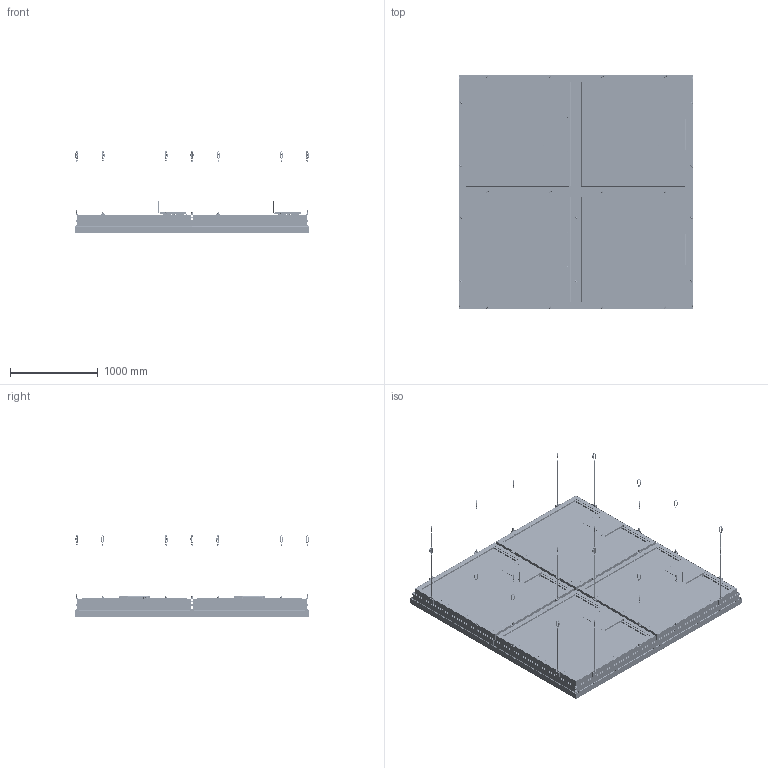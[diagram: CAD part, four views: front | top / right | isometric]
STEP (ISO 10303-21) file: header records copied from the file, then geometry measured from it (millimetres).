
FILE_DESCRIPTION (( 'STEP AP203' ), '1' );
FILE_NAME ('LSL-LUMISKY-4x4-Suspended-2H-2V.STEP', '2025-06-30T18:46:38', ( '' ), ( '' ), 'SwSTEP 2.0', 'SolidWorks 2023', '' );
FILE_SCHEMA (( 'CONFIG_CONTROL_DESIGN' ));
Length unit declared in the file: millimetre
Products named in the file (62): Assem of Aluminum extrude for magnet V7.2; M6 washer WITH SECURE V7.1; Molex 2pin female-4X4; Mirrorsmall support plate-4X4; AC JUNCTION BOX V4_short; PORSCHE RAPID LINK PORCHE20160912.; HLG-320H-24A-4X4; connector-4X4; Base of gripper V7.4; plunger-0425_2_released long; DC JUNC ASSEM^Assem collection line V4.0-4X4_ASTRA STATIC 4P; mounting rectangular V7.1; long M6 nut-4X4; Assem OF MOUNTING RECTANGULAR with gripper V7.4_NO CABLE; AC CABLE CONNECTOR WITH BX CABLE; Assem of gripper of lumisky V7.4; TRX-4X4_WITH BRACKET; frame 1030 and 2125 2X2 V6.0_2125<As Machined>; M4 x 0.7 x12 flat screw for magnet_91294A192; COLLECTION _ AC JB_BX CABLE-4X4_WITH ELECTRICAL CABLE; M4 SCREW; plate for driver V4.1-4X4_SMALL; 1030 881_Default<As Machined>; M8 X 1.25 FLANGE NUT_92461A400; PORSCHE AIRCRAFT CABLE PORCHE160803._with cable 150mm; Cover of gripper V7.4; mullion cover; LSL-LUMISKY-4x4-Suspended-2H-2V; M8 PLATE NUT; GRID 4x4ft_2 X 2; connector SIDE FIXED-4X4; Assem PLUNGER from Joan 0425_released long; BLOCKOUT^ASSM_FLS 2125; AC CABLE COLLETOR PLATE; 1030 1770_Default<As Machined>; SUSPENSION_LUMISKY; mullion extrude 4x4ft_2 X 2_4 x 8<As Machined>; PORSCHE ASSEMBLE hanging cable  PO170106.; Assem 1030 881; 91290A351_Alloy Steel Socket Head Screw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
Assembly tree (113 placements, depth 8):
  LSL-LUMISKY-4x4-Suspended-2H-2V
    GRID 4x4ft_2 X 2
      Sub_assm_cb1030 4x4ft_2 X 2
        Assem 1030 1770  x3
          1030 1770_Default<As Machined>
          Assem OF MOUNTING RECTANGULAR with gripper V7.4_SUSPENSION CABLE
            mounting rectangular V7.1
            91290A351_Alloy Steel Socket Head Screw
            SUSPENSION_LUMISKY
              Assem of gripper of lumisky V7.4
                Base of gripper V7.4
                Cover of gripper V7.4
                secure screw V7.4
                M3 x 3 Set Screw_91390A097
              PORSCHE ASSEMBLE hanging cable  PO170106.
                PORSCHE AIRCRAFT CABLE PORCHE160803._with cable 150mm
                PORSCHE RAPID LINK PORCHE20160912.
            M6 washer WITH SECURE V7.1
          Assem of Aluminum extrude for magnet V7.2
            extrusion for magnet V7.1
            M4 x 0.7 x12 flat screw for magnet_91294A192
            N52 magnet 8mm Green
        Assem 1030 881  x3
          1030 881_Default<As Machined>
          Assem OF MOUNTING RECTANGULAR with gripper V7.4_SUSPENSION CABLE
            mounting rectangular V7.1
            91290A351_Alloy Steel Socket Head Screw
            SUSPENSION_LUMISKY
              Assem of gripper of lumisky V7.4
                Base of gripper V7.4
                Cover of gripper V7.4
                secure screw V7.4
                M3 x 3 Set Screw_91390A097
              PORSCHE ASSEMBLE hanging cable  PO170106.
                PORSCHE AIRCRAFT CABLE PORCHE160803._with cable 150mm
                PORSCHE RAPID LINK PORCHE20160912.
            M6 washer WITH SECURE V7.1
          Assem of Aluminum extrude for magnet V7.2
            extrusion for magnet V7.1
            M4 x 0.7 x12 flat screw for magnet_91294A192
            N52 magnet 8mm Green
        Assem 1030 639_MIRROR  x5
          1030 639_Default<As Machined>
          Assem OF MOUNTING RECTANGULAR with gripper V7.4_SUSPENSION CABLE
            mounting rectangular V7.1
            91290A351_Alloy Steel Socket Head Screw
            SUSPENSION_LUMISKY
              Assem of gripper of lumisky V7.4
                Base of gripper V7.4
                Cover of gripper V7.4
                secure screw V7.4
                M3 x 3 Set Screw_91390A097
              PORSCHE ASSEMBLE hanging cable  PO170106.
                PORSCHE AIRCRAFT CABLE PORCHE160803._with cable 150mm
                PORSCHE RAPID LINK PORCHE20160912.
            M6 washer WITH SECURE V7.1
          Assem of Aluminum extrude for magnet V7.2
            extrusion for magnet V7.1
            M4 x 0.7 x12 flat screw for magnet_91294A192
            N52 magnet 8mm Green
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Bounding box: 2682 x 2682 x 927.67 mm (x, y, z)
Topology: 802 solids, 814 shells, 34262 faces, 91608 edges, 58974 vertices
Faces by surface type: plane 15166, cylinder 13044, bspline 3066, cone 2170, torus 464, sphere 352
Entity records: 182058 total; most frequent: CARTESIAN_POINT 68672, ORIENTED_EDGE 23244, DIRECTION 20486, EDGE_CURVE 11622, LINE 7692, VECTOR 7692, VERTEX_POINT 7633, AXIS2_PLACEMENT_3D 6397
